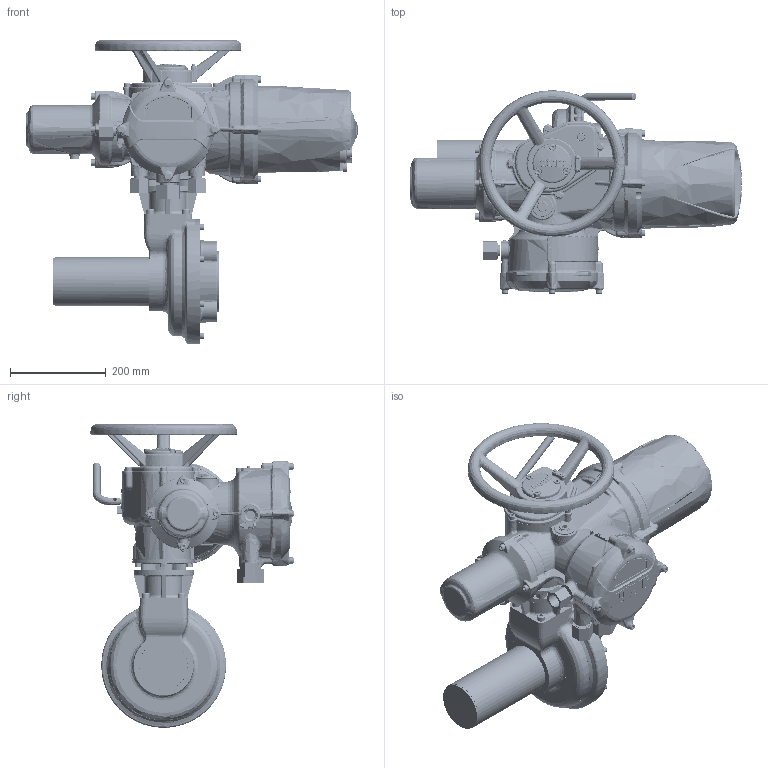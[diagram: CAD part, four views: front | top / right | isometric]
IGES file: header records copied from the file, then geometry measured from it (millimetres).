
Start section: C
Global section: file name: II1THWIB6STD-1.igs; native system: By Siemens PLM Incorporated; preprocessor: XPlus GENERIC/IGES 18.0.17; author: Author; organization: Title; date: 20160624.084831; units: millimetre
Bounding box: 692.3 x 423.71 x 633.33 mm (x, y, z)
Surface area: 1284108 mm2 (no closed solid volume)
Topology: 0 solids, 0 shells, 7898 faces, 43784 edges, 43425 vertices
Faces by surface type: bspline 7898
